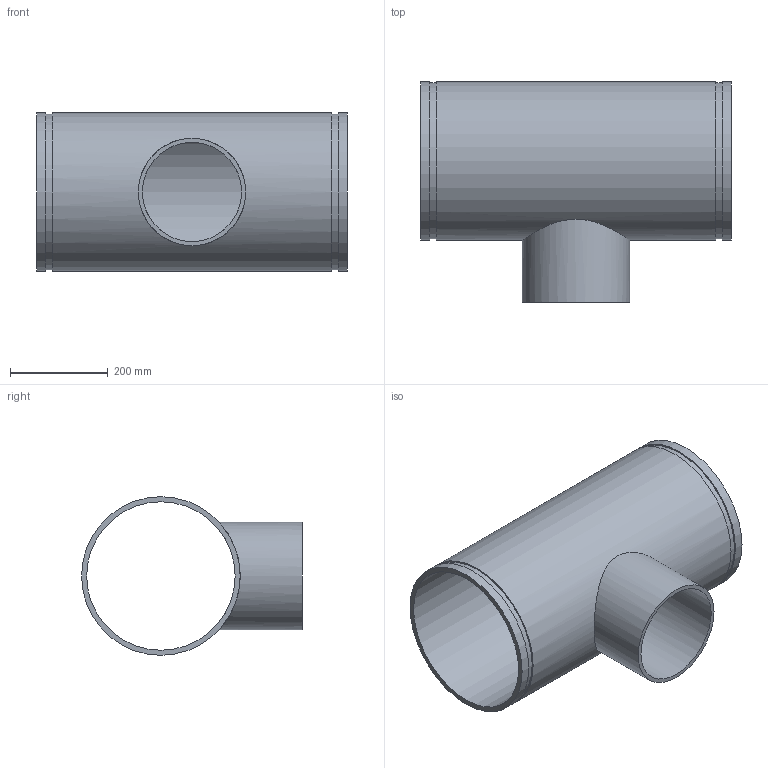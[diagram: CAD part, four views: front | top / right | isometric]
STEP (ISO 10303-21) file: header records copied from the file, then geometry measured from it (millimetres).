
FILE_DESCRIPTION(/* description */ ('VIC REDUCING TEE No 29T FFT (OGSxMPT)','CAx-IF Rec.Pracs.---Representation and Presentation of Product Manufacturing Information (PMI)---4.0---2014-10-13'),/* implementation_level */ '2;1');
FILE_NAME(/* name */ 'C:\Users\kkamble\AppData\Roaming\Autodesk\ApplicationPlugins\Back Up\Victaulic_IPS_Tee Reducing_No 29T FFT (OGSxMPT)\Victaulic_IPS_Tee Reducing_No 29T FFT (OGSxMPT)_12.0x08.0 (300x200).stp',/* time_stamp */ '2020-09-16T22:39:26+05:00',/* author */ ('CORINNE GRAY'),/* organization */ ('Victaulic'),/* preprocessor_version */ 'ST-DEVELOPER v17.2',/* originating_system */ 'Autodesk Inventor 2019',/* authorisation */ '');
FILE_SCHEMA (('AP242_MANAGED_MODEL_BASED_3D_ENGINEERING_MIM_LF { 1 0 10303 442 1 1 4 }'));
Length unit declared in the file: inch
Products named in the file (1): 29 FFT-12.0x08.0
Bounding box: 635 x 450.98 x 323.85 mm (x, y, z)
Volume: 6816776.7 mm3; surface area: 1413723.3 mm2
Topology: 1 solids, 1 shells, 15 faces, 32 edges, 24 vertices
Faces by surface type: cylinder 8, plane 7
Full cylindrical faces by diameter (mm): 202.717 x1, 219.075 x1, 303.225 x1, 318.287 x2, 323.85 x3
Entity records: 717 total; most frequent: CARTESIAN_POINT 229, DIRECTION 106, ORIENTED_EDGE 64, AXIS2_PLACEMENT_3D 49, EDGE_CURVE 32, EDGE_LOOP 24, VERTEX_POINT 24, CIRCLE 20
